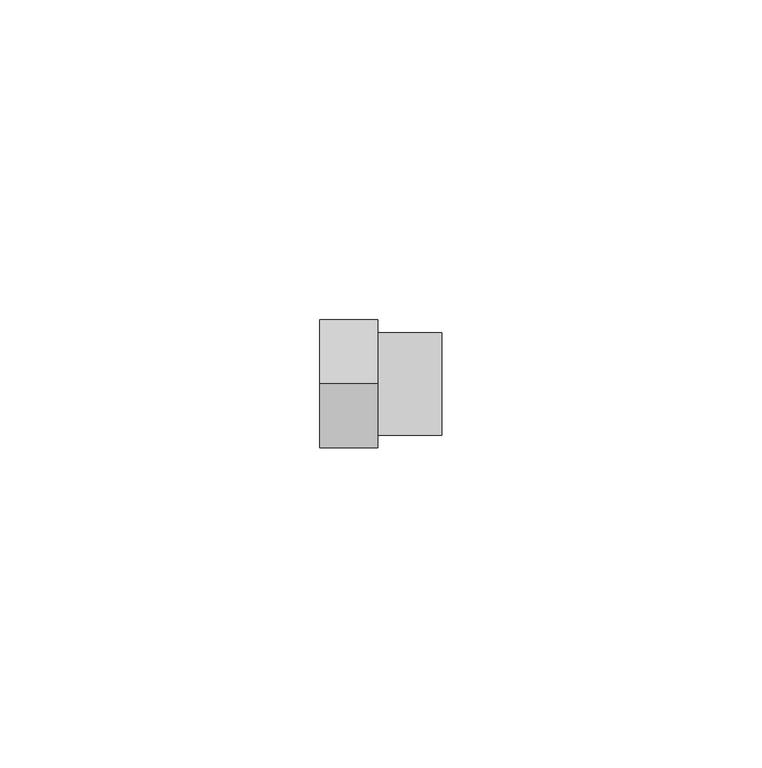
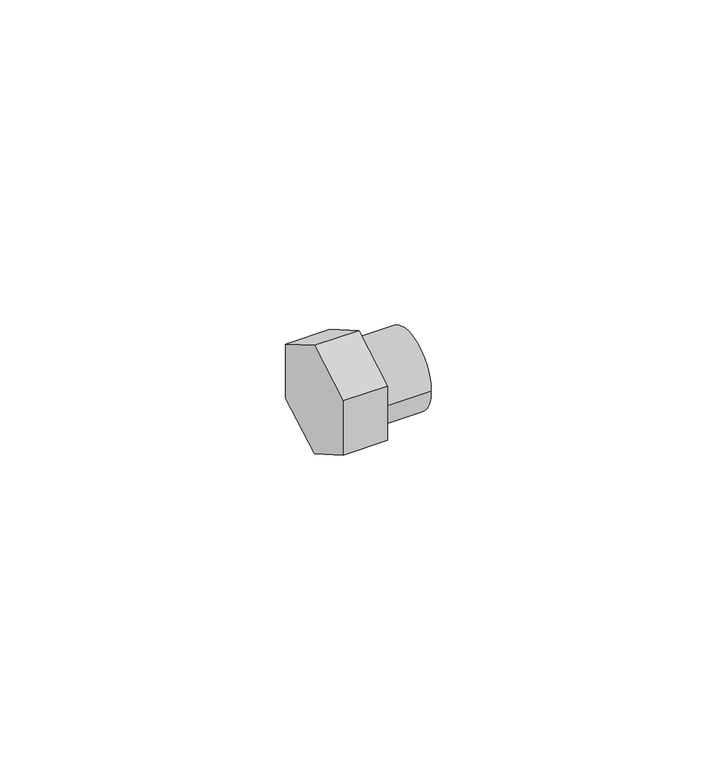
"""IFC4 building model written with IfcOpenShell, lengths in millimetres: pipe fitting geometry, Euroconus screwing for multilayer pipes - Manifold FT : Euroconus screwing for multilayer pipes - Manifold FT."""

from ifc_helpers import new_model, si_unit, point, frame, origin, origin_2d, place, context, project, spatial, circle_curve, trimmed, segment, composite_curve, outline, extrude, source, transform, mapped, element, save
from ifc_brep_helpers import plane_surface, cylinder_surface, advanced_brep


def pipe_fitting_03c6499f(model_context):
    return source(origin(), model_context, "Body", "SolidModel", [
        extrude(outline(composite_curve([segment(trimmed(circle_curve(origin_2d(), 8.0), [point((-8.0, 0.0))], [point((8.0, 0.0))], False, "CARTESIAN"), True, "CONTINUOUS"), segment(trimmed(circle_curve(origin_2d(), 8.0), [point((8.0, 0.0))], [point((-8.0, 0.0))], False, "CARTESIAN"), True, "CONTINUOUS")], self_intersect=False)), frame((0.0, 0.0, 0.0), z_axis=(1.0, 0.0, 0.0), x_axis=(0.0, 1.0, 0.0)), (0.0, 0.0, 1.0), 10.0),
        advanced_brep(
        [(1.0, 6.0, 0.0), (1.0, -6.0, 0.0), (0.0, 6.0, 0.0), (0.0, -6.0, 0.0), (0.0, 10.0, 5.7735027), (0.0, 0.0, 11.5470054), (0.0, -10.0, 5.7735027), (0.0, -10.0, -5.7735027), (0.0, 0.0, -11.5470054), (0.0, 10.0, -5.7735027), (-9.0, 10.0, 5.7735027), (-9.0, 10.0, -5.7735027), (-9.0, 0.0, -11.5470054), (-9.0, -10.0, -5.7735027), (-9.0, -10.0, 5.7735027), (-9.0, 0.0, 11.5470054)],
        [
            (0, 1, circle_curve(frame((1.0, 0.0, 0.0), z_axis=(1.0, 0.0, 0.0), x_axis=(0.0, -1.0, 0.0)), 6.0)),
            (1, 0, circle_curve(frame((1.0, 0.0, 0.0), z_axis=(1.0, 0.0, 0.0), x_axis=(0.0, -1.0, 0.0)), 6.0)),
            (0, 2),
            (2, 3, circle_curve(frame((0.0, 0.0, 0.0), z_axis=(1.0, 0.0, 0.0), x_axis=(0.0, -1.0, 0.0)), 6.0)),
            (3, 1),
            (3, 2, circle_curve(frame((0.0, 0.0, 0.0), z_axis=(1.0, 0.0, 0.0), x_axis=(0.0, -1.0, 0.0)), 6.0)),
            (4, 5),
            (5, 6),
            (6, 7),
            (7, 8),
            (8, 9),
            (9, 4),
            (10, 11),
            (11, 12),
            (12, 13),
            (13, 14),
            (14, 15),
            (15, 10),
            (9, 11),
            (10, 4),
            (8, 12),
            (7, 13),
            (6, 14),
            (5, 15),
        ],
        [
            plane_surface(frame((1.0, 0.0, 0.0), z_axis=(1.0, 0.0, 0.0), x_axis=(0.0, 0.0, 1.0))),
            cylinder_surface(frame((1.0, 0.0, 0.0), z_axis=(1.0, 0.0, 0.0), x_axis=(0.0, -1.0, 0.0)), 6.0),
            plane_surface(frame((0.0, 0.0, 11.5470054), z_axis=(1.0, 0.0, 0.0), x_axis=(0.0, -0.866025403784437, 0.5000000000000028))),
            plane_surface(frame((-9.0, 0.0, 11.5470054), z_axis=(-1.0, 0.0, 0.0), x_axis=(0.0, 0.866025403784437, -0.5000000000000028))),
            plane_surface(frame((0.0, 10.0, -5.7735027), z_axis=(0.0, 1.0, 0.0), x_axis=(-1.0, 0.0, 0.0))),
            plane_surface(frame((0.0, 0.0, -11.5470054), z_axis=(0.0, 0.5000000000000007, -0.8660254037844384), x_axis=(-1.0, 0.0, 0.0))),
            plane_surface(frame((0.0, -10.0, -5.7735027), z_axis=(0.0, -0.5000000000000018, -0.8660254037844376), x_axis=(-1.0, 0.0, 0.0))),
            plane_surface(frame((0.0, -10.0, 5.7735027), z_axis=(0.0, -1.0, 0.0), x_axis=(-1.0, 0.0, 0.0))),
            plane_surface(frame((0.0, 0.0, 11.5470054), z_axis=(0.0, -0.5000000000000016, 0.8660254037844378), x_axis=(-1.0, 0.0, 0.0))),
            plane_surface(frame((0.0, 10.0, 5.7735027), z_axis=(0.0, 0.5000000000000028, 0.866025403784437), x_axis=(-1.0, 0.0, 0.0))),
        ],
        [
            (0, [[1, 2]]),
            (1, [[-1, 3, 4, 5]]),
            (1, [[-2, -5, 6, -3]]),
            (2, [[7, 8, 9, 10, 11, 12], [-4, -6]]),
            (3, [[13, 14, 15, 16, 17, 18]]),
            (4, [[-12, 19, -13, 20]]),
            (5, [[-11, 21, -14, -19]]),
            (6, [[-10, 22, -15, -21]]),
            (7, [[-9, 23, -16, -22]]),
            (8, [[-8, 24, -17, -23]]),
            (9, [[-7, -20, -18, -24]]),
        ],
    ),
    ])


if __name__ == "__main__":
    model = new_model("IFC4")
    model_context = context("Model", 3, world=origin())
    ifc_project = project(units=[si_unit("LENGTHUNIT", "METRE", prefix="MILLI")], contexts=[model_context])
    site = spatial("IfcSite", under=ifc_project)
    building = spatial("IfcBuilding", under=site)
    placement = place(None, origin())
    pipe_fitting_shape = pipe_fitting_03c6499f(model_context)
    element("IfcPipeFitting", 1, ObjectType="Euroconus screwing for multilayer pipes - Manifold FT : Euroconus screwing for multilayer pipes - Manifold FT", at=placement, inside=building, context=model_context, shape_type="MappedRepresentation", body=[
        mapped(pipe_fitting_shape, transform((0.0, 0.0, 0.0), x_axis=(1.0, 0.0, 0.0), y_axis=(0.0, 1.0, 0.0), z_axis=(0.0, 0.0, 1.0))),
    ])
    save(model, "model.ifc")
